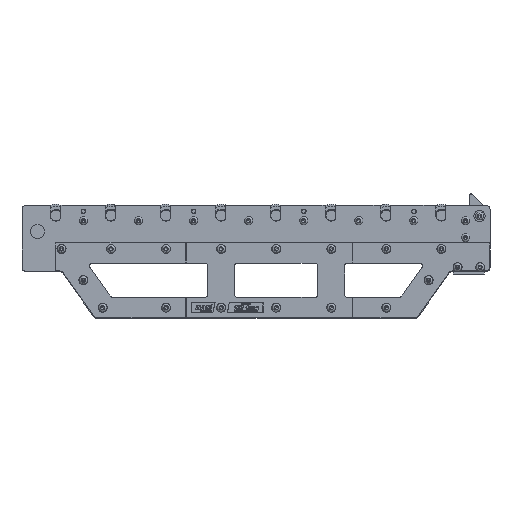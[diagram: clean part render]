
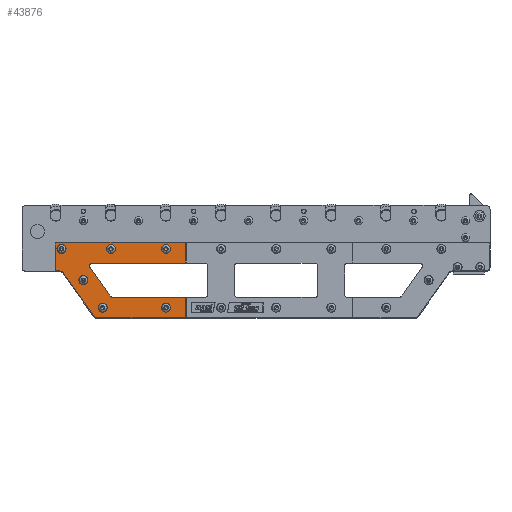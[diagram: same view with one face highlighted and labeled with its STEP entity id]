
A CAD part, top view. The second image highlights one B-rep face of the part: STEP entity #43876.
In plain terms, the highlighted planar face has unit normal (0, 0, 1).
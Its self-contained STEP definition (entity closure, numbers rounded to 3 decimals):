
#3490=PLANE('',#46495);
#5184=LINE('',#58708,#9712);
#5185=LINE('',#58712,#9713);
#5186=LINE('',#58716,#9714);
#5187=LINE('',#58720,#9715);
#5188=LINE('',#58722,#9716);
#5189=LINE('',#58724,#9717);
#5190=LINE('',#58728,#9718);
#5191=LINE('',#58732,#9719);
#5192=LINE('',#58734,#9720);
#5193=LINE('',#58735,#9721);
#9712=VECTOR('',#49440,97.);
#9713=VECTOR('',#49443,14.191);
#9714=VECTOR('',#49446,185.811);
#9715=VECTOR('',#49449,314.657);
#9716=VECTOR('',#49450,72.);
#9717=VECTOR('',#49451,259.206);
#9718=VECTOR('',#49454,123.298);
#9719=VECTOR('',#49457,329.927);
#9720=VECTOR('',#49458,73.);
#9721=VECTOR('',#49459,460.);
#14135=FACE_BOUND('',#17221,.T.);
#14136=FACE_BOUND('',#17222,.T.);
#14137=FACE_BOUND('',#17223,.T.);
#14138=FACE_BOUND('',#17224,.T.);
#14139=FACE_BOUND('',#17225,.T.);
#14140=FACE_BOUND('',#17226,.T.);
#14685=FACE_OUTER_BOUND('',#17220,.T.);
#17220=EDGE_LOOP('',(#31712,#31713,#31714,#31715,#31716,#31717,#31718,#31719,
#31720,#31721,#31722,#31723,#31724,#31725,#31726,#31727));
#17221=EDGE_LOOP('',(#31728));
#17222=EDGE_LOOP('',(#31729));
#17223=EDGE_LOOP('',(#31730));
#17224=EDGE_LOOP('',(#31731));
#17225=EDGE_LOOP('',(#31732));
#17226=EDGE_LOOP('',(#31733));
#20066=CIRCLE('',#46493,2.);
#20068=CIRCLE('',#46496,2.);
#20069=CIRCLE('',#46497,17.);
#20070=CIRCLE('',#46498,13.);
#20071=CIRCLE('',#46499,10.);
#20072=CIRCLE('',#46500,10.);
#20073=CIRCLE('',#46501,16.);
#20074=CIRCLE('',#46502,16.);
#20075=CIRCLE('',#46503,16.);
#20076=CIRCLE('',#46504,16.);
#20077=CIRCLE('',#46505,16.);
#20078=CIRCLE('',#46506,16.);
#20646=VERTEX_POINT('',#58698);
#20647=VERTEX_POINT('',#58699);
#20650=VERTEX_POINT('',#58707);
#20651=VERTEX_POINT('',#58709);
#20652=VERTEX_POINT('',#58711);
#20653=VERTEX_POINT('',#58713);
#20654=VERTEX_POINT('',#58715);
#20655=VERTEX_POINT('',#58717);
#20656=VERTEX_POINT('',#58719);
#20657=VERTEX_POINT('',#58721);
#20658=VERTEX_POINT('',#58723);
#20659=VERTEX_POINT('',#58725);
#20660=VERTEX_POINT('',#58727);
#20661=VERTEX_POINT('',#58729);
#20662=VERTEX_POINT('',#58731);
#20663=VERTEX_POINT('',#58733);
#20664=VERTEX_POINT('',#58736);
#20665=VERTEX_POINT('',#58738);
#20666=VERTEX_POINT('',#58740);
#20667=VERTEX_POINT('',#58742);
#20668=VERTEX_POINT('',#58744);
#20669=VERTEX_POINT('',#58746);
#25020=EDGE_CURVE('',#20646,#20647,#20066,.T.);
#25024=EDGE_CURVE('',#20646,#20650,#5184,.T.);
#25025=EDGE_CURVE('',#20651,#20650,#20068,.T.);
#25026=EDGE_CURVE('',#20651,#20652,#5185,.T.);
#25027=EDGE_CURVE('',#20652,#20653,#20069,.T.);
#25028=EDGE_CURVE('',#20653,#20654,#5186,.T.);
#25029=EDGE_CURVE('',#20654,#20655,#20070,.T.);
#25030=EDGE_CURVE('',#20655,#20656,#5187,.T.);
#25031=EDGE_CURVE('',#20656,#20657,#5188,.T.);
#25032=EDGE_CURVE('',#20658,#20657,#5189,.T.);
#25033=EDGE_CURVE('',#20659,#20658,#20071,.T.);
#25034=EDGE_CURVE('',#20660,#20659,#5190,.T.);
#25035=EDGE_CURVE('',#20661,#20660,#20072,.T.);
#25036=EDGE_CURVE('',#20662,#20661,#5191,.T.);
#25037=EDGE_CURVE('',#20662,#20663,#5192,.T.);
#25038=EDGE_CURVE('',#20663,#20647,#5193,.T.);
#25039=EDGE_CURVE('',#20664,#20664,#20073,.T.);
#25040=EDGE_CURVE('',#20665,#20665,#20074,.T.);
#25041=EDGE_CURVE('',#20666,#20666,#20075,.T.);
#25042=EDGE_CURVE('',#20667,#20667,#20076,.T.);
#25043=EDGE_CURVE('',#20668,#20668,#20077,.T.);
#25044=EDGE_CURVE('',#20669,#20669,#20078,.T.);
#31712=ORIENTED_EDGE('',*,*,#25020,.F.);
#31713=ORIENTED_EDGE('',*,*,#25024,.T.);
#31714=ORIENTED_EDGE('',*,*,#25025,.F.);
#31715=ORIENTED_EDGE('',*,*,#25026,.T.);
#31716=ORIENTED_EDGE('',*,*,#25027,.T.);
#31717=ORIENTED_EDGE('',*,*,#25028,.T.);
#31718=ORIENTED_EDGE('',*,*,#25029,.T.);
#31719=ORIENTED_EDGE('',*,*,#25030,.T.);
#31720=ORIENTED_EDGE('',*,*,#25031,.T.);
#31721=ORIENTED_EDGE('',*,*,#25032,.F.);
#31722=ORIENTED_EDGE('',*,*,#25033,.F.);
#31723=ORIENTED_EDGE('',*,*,#25034,.F.);
#31724=ORIENTED_EDGE('',*,*,#25035,.F.);
#31725=ORIENTED_EDGE('',*,*,#25036,.F.);
#31726=ORIENTED_EDGE('',*,*,#25037,.T.);
#31727=ORIENTED_EDGE('',*,*,#25038,.T.);
#31728=ORIENTED_EDGE('',*,*,#25039,.T.);
#31729=ORIENTED_EDGE('',*,*,#25040,.T.);
#31730=ORIENTED_EDGE('',*,*,#25041,.T.);
#31731=ORIENTED_EDGE('',*,*,#25042,.T.);
#31732=ORIENTED_EDGE('',*,*,#25043,.T.);
#31733=ORIENTED_EDGE('',*,*,#25044,.T.);
#43876=ADVANCED_FACE('',(#14685,#14135,#14136,#14137,#14138,#14139,#14140),
#3490,.T.);
#46493=AXIS2_PLACEMENT_3D('',#58700,#49432,#49433);
#46495=AXIS2_PLACEMENT_3D('',#58706,#49438,#49439);
#46496=AXIS2_PLACEMENT_3D('',#58710,#49441,#49442);
#46497=AXIS2_PLACEMENT_3D('',#58714,#49444,#49445);
#46498=AXIS2_PLACEMENT_3D('',#58718,#49447,#49448);
#46499=AXIS2_PLACEMENT_3D('',#58726,#49452,#49453);
#46500=AXIS2_PLACEMENT_3D('',#58730,#49455,#49456);
#46501=AXIS2_PLACEMENT_3D('',#58737,#49460,#49461);
#46502=AXIS2_PLACEMENT_3D('',#58739,#49462,#49463);
#46503=AXIS2_PLACEMENT_3D('',#58741,#49464,#49465);
#46504=AXIS2_PLACEMENT_3D('',#58743,#49466,#49467);
#46505=AXIS2_PLACEMENT_3D('',#58745,#49468,#49469);
#46506=AXIS2_PLACEMENT_3D('',#58747,#49470,#49471);
#49432=DIRECTION('center_axis',(0.,0.,-1.));
#49433=DIRECTION('ref_axis',(-0.707,0.707,0.));
#49438=DIRECTION('center_axis',(0.,0.,1.));
#49439=DIRECTION('ref_axis',(1.,0.,0.));
#49440=DIRECTION('',(0.,-1.,0.));
#49441=DIRECTION('center_axis',(0.,0.,-1.));
#49442=DIRECTION('ref_axis',(-0.707,-0.707,0.));
#49443=DIRECTION('',(1.,0.,0.));
#49444=DIRECTION('center_axis',(0.,0.,-1.));
#49445=DIRECTION('ref_axis',(0.819,0.574,0.));
#49446=DIRECTION('',(0.574,-0.819,0.));
#49447=DIRECTION('center_axis',(0.,0.,1.));
#49448=DIRECTION('ref_axis',(0.819,0.574,0.));
#49449=DIRECTION('',(1.,0.,0.));
#49450=DIRECTION('',(0.,1.,0.));
#49451=DIRECTION('',(1.,0.,0.));
#49452=DIRECTION('center_axis',(0.,0.,1.));
#49453=DIRECTION('ref_axis',(-0.462,-0.887,0.));
#49454=DIRECTION('',(0.574,-0.819,0.));
#49455=DIRECTION('center_axis',(0.,0.,1.));
#49456=DIRECTION('ref_axis',(-0.887,0.462,0.));
#49457=DIRECTION('',(-1.,0.,0.));
#49458=DIRECTION('',(0.,1.,0.));
#49459=DIRECTION('',(-1.,0.,0.));
#49460=DIRECTION('center_axis',(0.,0.,-1.));
#49461=DIRECTION('ref_axis',(-1.,0.,0.));
#49462=DIRECTION('center_axis',(0.,0.,-1.));
#49463=DIRECTION('ref_axis',(-1.,0.,0.));
#49464=DIRECTION('center_axis',(0.,0.,-1.));
#49465=DIRECTION('ref_axis',(-1.,0.,0.));
#49466=DIRECTION('center_axis',(0.,0.,-1.));
#49467=DIRECTION('ref_axis',(-1.,0.,0.));
#49468=DIRECTION('center_axis',(0.,0.,-1.));
#49469=DIRECTION('ref_axis',(-1.,0.,0.));
#49470=DIRECTION('center_axis',(0.,0.,-1.));
#49471=DIRECTION('ref_axis',(-1.,0.,0.));
#58698=CARTESIAN_POINT('',(117.,101.,0.7));
#58699=CARTESIAN_POINT('',(119.,103.,0.7));
#58700=CARTESIAN_POINT('Origin',(119.,101.,0.7));
#58706=CARTESIAN_POINT('Origin',(824.602,75.734,0.7));
#58707=CARTESIAN_POINT('',(117.,4.,0.7));
#58708=CARTESIAN_POINT('',(117.,89.367,0.7));
#58709=CARTESIAN_POINT('',(119.,2.,0.7));
#58710=CARTESIAN_POINT('Origin',(119.,4.,0.7));
#58711=CARTESIAN_POINT('',(133.191,2.,0.7));
#58712=CARTESIAN_POINT('',(478.897,2.,0.7));
#58713=CARTESIAN_POINT('',(147.117,-5.249,0.7));
#58714=CARTESIAN_POINT('Origin',(133.191,-15.,0.7));
#58715=CARTESIAN_POINT('',(253.694,-157.456,0.7));
#58716=CARTESIAN_POINT('',(292.824,-213.34,0.7));
#58717=CARTESIAN_POINT('',(264.343,-163.,0.7));
#58718=CARTESIAN_POINT('Origin',(264.343,-150.,0.7));
#58719=CARTESIAN_POINT('',(579.,-163.,0.7));
#58720=CARTESIAN_POINT('',(1108.63,-163.,0.7));
#58721=CARTESIAN_POINT('',(579.,-91.,0.7));
#58722=CARTESIAN_POINT('',(579.,-44.633,0.7));
#58723=CARTESIAN_POINT('',(319.794,-91.,0.7));
#58724=CARTESIAN_POINT('',(741.301,-91.,0.7));
#58725=CARTESIAN_POINT('',(311.603,-86.736,0.7));
#58726=CARTESIAN_POINT('Origin',(319.794,-81.,0.7));
#58727=CARTESIAN_POINT('',(240.882,14.264,0.7));
#58728=CARTESIAN_POINT('',(359.314,-154.874,0.7));
#58729=CARTESIAN_POINT('',(249.073,30.,0.7));
#58730=CARTESIAN_POINT('Origin',(249.073,20.,0.7));
#58731=CARTESIAN_POINT('',(579.,30.,0.7));
#58732=CARTESIAN_POINT('',(527.233,30.,0.7));
#58733=CARTESIAN_POINT('',(579.,103.,0.7));
#58734=CARTESIAN_POINT('',(579.,-44.633,0.7));
#58735=CARTESIAN_POINT('',(413.301,103.,0.7));
#58736=CARTESIAN_POINT('',(331.,80.,0.7));
#58737=CARTESIAN_POINT('Origin',(315.,80.,0.7));
#58738=CARTESIAN_POINT('',(526.,-128.,0.7));
#58739=CARTESIAN_POINT('Origin',(510.,-128.,0.7));
#58740=CARTESIAN_POINT('',(155.918,80.,0.7));
#58741=CARTESIAN_POINT('Origin',(139.918,80.,0.7));
#58742=CARTESIAN_POINT('',(301.561,-128.,0.7));
#58743=CARTESIAN_POINT('Origin',(285.561,-128.,0.7));
#58744=CARTESIAN_POINT('',(233.5,-30.798,0.7));
#58745=CARTESIAN_POINT('Origin',(217.5,-30.798,0.7));
#58746=CARTESIAN_POINT('',(526.,80.,0.7));
#58747=CARTESIAN_POINT('Origin',(510.,80.,0.7));
